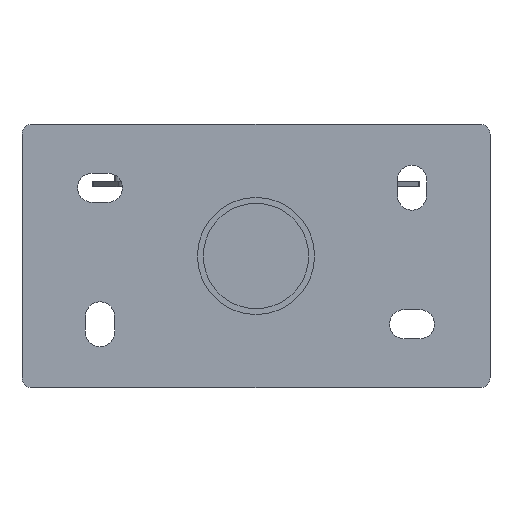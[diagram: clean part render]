
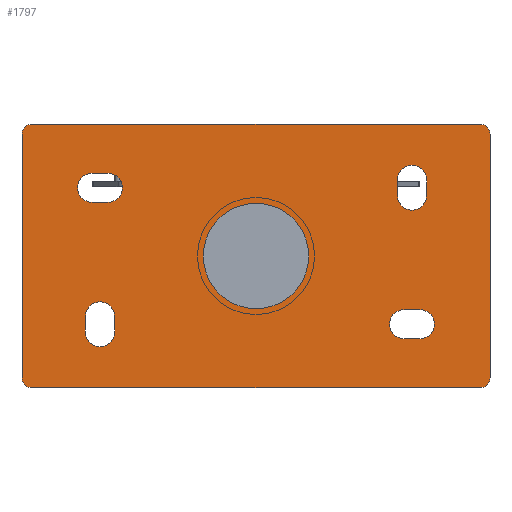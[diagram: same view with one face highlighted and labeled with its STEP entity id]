
A CAD part, front view. The second image highlights one B-rep face of the part: STEP entity #1797.
In plain terms, the highlighted planar face has unit normal (0, -1, 0).
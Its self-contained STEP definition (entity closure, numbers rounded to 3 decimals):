
#303=CARTESIAN_POINT('',(-115.,-1042.,24.104));
#304=DIRECTION('',(0.,-1.,0.));
#305=DIRECTION('',(0.,0.,1.));
#306=AXIS2_PLACEMENT_3D('',#303,#304,#305);
#308=DIRECTION('',(1.,0.,0.));
#309=VECTOR('',#308,230.);
#310=CARTESIAN_POINT('',(-115.,-1042.,29.104));
#311=LINE('195',#310,#309);
#312=CARTESIAN_POINT('',(115.,-1042.,24.104));
#313=DIRECTION('',(0.,-1.,0.));
#314=DIRECTION('',(1.,0.,0.));
#315=AXIS2_PLACEMENT_3D('',#312,#313,#314);
#317=DIRECTION('',(0.,0.,-1.));
#318=VECTOR('',#317,125.);
#319=CARTESIAN_POINT('',(120.,-1042.,24.104));
#320=LINE('196',#319,#318);
#321=CARTESIAN_POINT('',(115.,-1042.,-100.896));
#322=DIRECTION('',(0.,-1.,0.));
#323=DIRECTION('',(0.,0.,-1.));
#324=AXIS2_PLACEMENT_3D('',#321,#322,#323);
#326=DIRECTION('',(-1.,0.,0.));
#327=VECTOR('',#326,230.);
#328=CARTESIAN_POINT('',(115.,-1042.,-105.896));
#329=LINE('193',#328,#327);
#330=CARTESIAN_POINT('',(-115.,-1042.,-100.896));
#331=DIRECTION('',(0.,-1.,0.));
#332=DIRECTION('',(-1.,0.,0.));
#333=AXIS2_PLACEMENT_3D('',#330,#331,#332);
#335=DIRECTION('',(0.,0.,1.));
#336=VECTOR('',#335,125.);
#337=CARTESIAN_POINT('',(-120.,-1042.,-100.896));
#338=LINE('194',#337,#336);
#339=CARTESIAN_POINT('',(-80.,-1042.,-69.396));
#340=DIRECTION('',(0.,1.,0.));
#341=DIRECTION('',(-1.,0.,0.));
#342=AXIS2_PLACEMENT_3D('',#339,#340,#341);
#344=DIRECTION('',(0.,0.,1.));
#345=VECTOR('',#344,8.);
#346=CARTESIAN_POINT('',(-87.5,-1042.,-77.396));
#347=LINE('132',#346,#345);
#348=CARTESIAN_POINT('',(-80.,-1042.,-77.396));
#349=DIRECTION('',(0.,1.,0.));
#350=DIRECTION('',(1.,0.,0.));
#351=AXIS2_PLACEMENT_3D('',#348,#349,#350);
#353=DIRECTION('',(0.,0.,-1.));
#354=VECTOR('',#353,8.);
#355=CARTESIAN_POINT('',(-72.5,-1042.,-69.396));
#356=LINE('130',#355,#354);
#357=CARTESIAN_POINT('',(80.,-1042.,-7.396));
#358=DIRECTION('',(0.,1.,0.));
#359=DIRECTION('',(1.,0.,0.));
#360=AXIS2_PLACEMENT_3D('',#357,#358,#359);
#362=DIRECTION('',(0.,0.,-1.));
#363=VECTOR('',#362,8.);
#364=CARTESIAN_POINT('',(87.5,-1042.,0.604));
#365=LINE('136',#364,#363);
#366=CARTESIAN_POINT('',(80.,-1042.,0.604));
#367=DIRECTION('',(0.,1.,0.));
#368=DIRECTION('',(-1.,0.,0.));
#369=AXIS2_PLACEMENT_3D('',#366,#367,#368);
#371=DIRECTION('',(0.,0.,1.));
#372=VECTOR('',#371,8.);
#373=CARTESIAN_POINT('',(72.5,-1042.,-7.396));
#374=LINE('134',#373,#372);
#375=CARTESIAN_POINT('',(-84.,-1042.,-3.396));
#376=DIRECTION('',(0.,1.,0.));
#377=DIRECTION('',(0.,0.,-1.));
#378=AXIS2_PLACEMENT_3D('',#375,#376,#377);
#380=DIRECTION('',(-1.,0.,0.));
#381=VECTOR('',#380,8.);
#382=CARTESIAN_POINT('',(-76.,-1042.,-10.896));
#383=LINE('140',#382,#381);
#384=CARTESIAN_POINT('',(-76.,-1042.,-3.396));
#385=DIRECTION('',(0.,1.,0.));
#386=DIRECTION('',(0.,0.,1.));
#387=AXIS2_PLACEMENT_3D('',#384,#385,#386);
#389=DIRECTION('',(1.,0.,0.));
#390=VECTOR('',#389,8.);
#391=CARTESIAN_POINT('',(-84.,-1042.,4.104));
#392=LINE('138',#391,#390);
#393=CARTESIAN_POINT('',(76.,-1042.,-73.396));
#394=DIRECTION('',(0.,1.,0.));
#395=DIRECTION('',(0.,0.,-1.));
#396=AXIS2_PLACEMENT_3D('',#393,#394,#395);
#398=DIRECTION('',(-1.,0.,0.));
#399=VECTOR('',#398,8.);
#400=CARTESIAN_POINT('',(84.,-1042.,-80.896));
#401=LINE('144',#400,#399);
#402=CARTESIAN_POINT('',(84.,-1042.,-73.396));
#403=DIRECTION('',(0.,1.,0.));
#404=DIRECTION('',(0.,0.,1.));
#405=AXIS2_PLACEMENT_3D('',#402,#403,#404);
#407=DIRECTION('',(1.,0.,0.));
#408=VECTOR('',#407,8.);
#409=CARTESIAN_POINT('',(76.,-1042.,-65.896));
#410=LINE('142',#409,#408);
#1090=CARTESIAN_POINT('',(0.,-1042.,-38.396));
#1091=DIRECTION('',(0.,1.,0.));
#1092=DIRECTION('',(0.,0.,1.));
#1093=AXIS2_PLACEMENT_3D('',#1090,#1091,#1092);
#1095=CARTESIAN_POINT('',(0.,-1042.,-38.396));
#1096=DIRECTION('',(0.,1.,0.));
#1097=DIRECTION('',(0.,0.,-1.));
#1098=AXIS2_PLACEMENT_3D('',#1095,#1096,#1097);
#1437=CARTESIAN_POINT('',(-87.5,-1042.,-69.396));
#1438=CARTESIAN_POINT('',(-72.5,-1042.,-69.396));
#1439=VERTEX_POINT('',#1437);
#1440=VERTEX_POINT('',#1438);
#1441=CARTESIAN_POINT('',(-72.5,-1042.,-77.396));
#1442=VERTEX_POINT('',#1441);
#1443=CARTESIAN_POINT('',(-87.5,-1042.,-77.396));
#1444=VERTEX_POINT('',#1443);
#1445=CARTESIAN_POINT('',(87.5,-1042.,-7.396));
#1446=CARTESIAN_POINT('',(72.5,-1042.,-7.396));
#1447=VERTEX_POINT('',#1445);
#1448=VERTEX_POINT('',#1446);
#1449=CARTESIAN_POINT('',(72.5,-1042.,0.604));
#1450=VERTEX_POINT('',#1449);
#1451=CARTESIAN_POINT('',(87.5,-1042.,0.604));
#1452=VERTEX_POINT('',#1451);
#1453=CARTESIAN_POINT('',(-84.,-1042.,-10.896));
#1454=CARTESIAN_POINT('',(-84.,-1042.,4.104));
#1455=VERTEX_POINT('',#1453);
#1456=VERTEX_POINT('',#1454);
#1457=CARTESIAN_POINT('',(-76.,-1042.,4.104));
#1458=VERTEX_POINT('',#1457);
#1459=CARTESIAN_POINT('',(-76.,-1042.,-10.896));
#1460=VERTEX_POINT('',#1459);
#1461=CARTESIAN_POINT('',(76.,-1042.,-80.896));
#1462=CARTESIAN_POINT('',(76.,-1042.,-65.896));
#1463=VERTEX_POINT('',#1461);
#1464=VERTEX_POINT('',#1462);
#1465=CARTESIAN_POINT('',(84.,-1042.,-65.896));
#1466=VERTEX_POINT('',#1465);
#1467=CARTESIAN_POINT('',(84.,-1042.,-80.896));
#1468=VERTEX_POINT('',#1467);
#1501=CARTESIAN_POINT('',(-115.,-1042.,29.104));
#1502=CARTESIAN_POINT('',(-120.,-1042.,24.104));
#1503=VERTEX_POINT('',#1501);
#1504=VERTEX_POINT('',#1502);
#1509=CARTESIAN_POINT('',(-120.,-1042.,-100.896));
#1510=CARTESIAN_POINT('',(-115.,-1042.,-105.896));
#1511=VERTEX_POINT('',#1509);
#1512=VERTEX_POINT('',#1510);
#1517=CARTESIAN_POINT('',(120.,-1042.,24.104));
#1518=CARTESIAN_POINT('',(115.,-1042.,29.104));
#1519=VERTEX_POINT('',#1517);
#1520=VERTEX_POINT('',#1518);
#1525=CARTESIAN_POINT('',(115.,-1042.,-105.896));
#1526=CARTESIAN_POINT('',(120.,-1042.,-100.896));
#1527=VERTEX_POINT('',#1525);
#1528=VERTEX_POINT('',#1526);
#1722=CARTESIAN_POINT('',(0.,-1042.,-65.396));
#1723=CARTESIAN_POINT('',(0.,-1042.,-11.396));
#1724=VERTEX_POINT('',#1722);
#1725=VERTEX_POINT('',#1723);
#1728=CARTESIAN_POINT('',(0.,-1042.,-38.396));
#1729=DIRECTION('',(0.,1.,0.));
#1730=DIRECTION('',(1.,0.,0.));
#1731=AXIS2_PLACEMENT_3D('',#1728,#1729,#1730);
#1732=PLANE('39',#1731);
#1734=ORIENTED_EDGE('177',*,*,#1733,.F.);
#1736=ORIENTED_EDGE('195',*,*,#1735,.T.);
#1738=ORIENTED_EDGE('185',*,*,#1737,.F.);
#1740=ORIENTED_EDGE('196',*,*,#1739,.T.);
#1742=ORIENTED_EDGE('189',*,*,#1741,.F.);
#1744=ORIENTED_EDGE('193',*,*,#1743,.T.);
#1746=ORIENTED_EDGE('181',*,*,#1745,.F.);
#1748=ORIENTED_EDGE('194',*,*,#1747,.T.);
#1749=EDGE_LOOP('39',(#1734,#1736,#1738,#1740,#1742,#1744,#1746,#1748));
#1750=FACE_OUTER_BOUND('39',#1749,.F.);
#1752=ORIENTED_EDGE('353',*,*,#1751,.F.);
#1754=ORIENTED_EDGE('352',*,*,#1753,.F.);
#1755=EDGE_LOOP('39',(#1752,#1754));
#1756=FACE_BOUND('39',#1755,.F.);
#1758=ORIENTED_EDGE('129',*,*,#1757,.F.);
#1760=ORIENTED_EDGE('132',*,*,#1759,.F.);
#1762=ORIENTED_EDGE('131',*,*,#1761,.F.);
#1764=ORIENTED_EDGE('130',*,*,#1763,.F.);
#1765=EDGE_LOOP('39',(#1758,#1760,#1762,#1764));
#1766=FACE_BOUND('39',#1765,.F.);
#1768=ORIENTED_EDGE('133',*,*,#1767,.F.);
#1770=ORIENTED_EDGE('136',*,*,#1769,.F.);
#1772=ORIENTED_EDGE('135',*,*,#1771,.F.);
#1774=ORIENTED_EDGE('134',*,*,#1773,.F.);
#1775=EDGE_LOOP('39',(#1768,#1770,#1772,#1774));
#1776=FACE_BOUND('39',#1775,.F.);
#1778=ORIENTED_EDGE('137',*,*,#1777,.F.);
#1780=ORIENTED_EDGE('140',*,*,#1779,.F.);
#1782=ORIENTED_EDGE('139',*,*,#1781,.F.);
#1784=ORIENTED_EDGE('138',*,*,#1783,.F.);
#1785=EDGE_LOOP('39',(#1778,#1780,#1782,#1784));
#1786=FACE_BOUND('39',#1785,.F.);
#1788=ORIENTED_EDGE('141',*,*,#1787,.F.);
#1790=ORIENTED_EDGE('144',*,*,#1789,.F.);
#1792=ORIENTED_EDGE('143',*,*,#1791,.F.);
#1794=ORIENTED_EDGE('142',*,*,#1793,.F.);
#1795=EDGE_LOOP('39',(#1788,#1790,#1792,#1794));
#1796=FACE_BOUND('39',#1795,.F.);
#307=CIRCLE('177',#306,5.);
#316=CIRCLE('185',#315,5.);
#325=CIRCLE('189',#324,5.);
#334=CIRCLE('181',#333,5.);
#343=CIRCLE('129',#342,7.5);
#352=CIRCLE('131',#351,7.5);
#361=CIRCLE('133',#360,7.5);
#370=CIRCLE('135',#369,7.5);
#379=CIRCLE('137',#378,7.5);
#388=CIRCLE('139',#387,7.5);
#397=CIRCLE('141',#396,7.5);
#406=CIRCLE('143',#405,7.5);
#1094=CIRCLE('353',#1093,27.);
#1099=CIRCLE('352',#1098,27.);
#1733=EDGE_CURVE('177',#1503,#1504,#307,.T.);
#1735=EDGE_CURVE('195',#1503,#1520,#311,.T.);
#1737=EDGE_CURVE('185',#1519,#1520,#316,.T.);
#1739=EDGE_CURVE('196',#1519,#1528,#320,.T.);
#1741=EDGE_CURVE('189',#1527,#1528,#325,.T.);
#1743=EDGE_CURVE('193',#1527,#1512,#329,.T.);
#1745=EDGE_CURVE('181',#1511,#1512,#334,.T.);
#1747=EDGE_CURVE('194',#1511,#1504,#338,.T.);
#1751=EDGE_CURVE('353',#1725,#1724,#1094,.T.);
#1753=EDGE_CURVE('352',#1724,#1725,#1099,.T.);
#1757=EDGE_CURVE('129',#1439,#1440,#343,.T.);
#1759=EDGE_CURVE('132',#1444,#1439,#347,.T.);
#1761=EDGE_CURVE('131',#1442,#1444,#352,.T.);
#1763=EDGE_CURVE('130',#1440,#1442,#356,.T.);
#1767=EDGE_CURVE('133',#1447,#1448,#361,.T.);
#1769=EDGE_CURVE('136',#1452,#1447,#365,.T.);
#1771=EDGE_CURVE('135',#1450,#1452,#370,.T.);
#1773=EDGE_CURVE('134',#1448,#1450,#374,.T.);
#1777=EDGE_CURVE('137',#1455,#1456,#379,.T.);
#1779=EDGE_CURVE('140',#1460,#1455,#383,.T.);
#1781=EDGE_CURVE('139',#1458,#1460,#388,.T.);
#1783=EDGE_CURVE('138',#1456,#1458,#392,.T.);
#1787=EDGE_CURVE('141',#1463,#1464,#397,.T.);
#1789=EDGE_CURVE('144',#1468,#1463,#401,.T.);
#1791=EDGE_CURVE('143',#1466,#1468,#406,.T.);
#1793=EDGE_CURVE('142',#1464,#1466,#410,.T.);
#1797=ADVANCED_FACE('39',(#1750,#1756,#1766,#1776,#1786,#1796),#1732,.F.);
